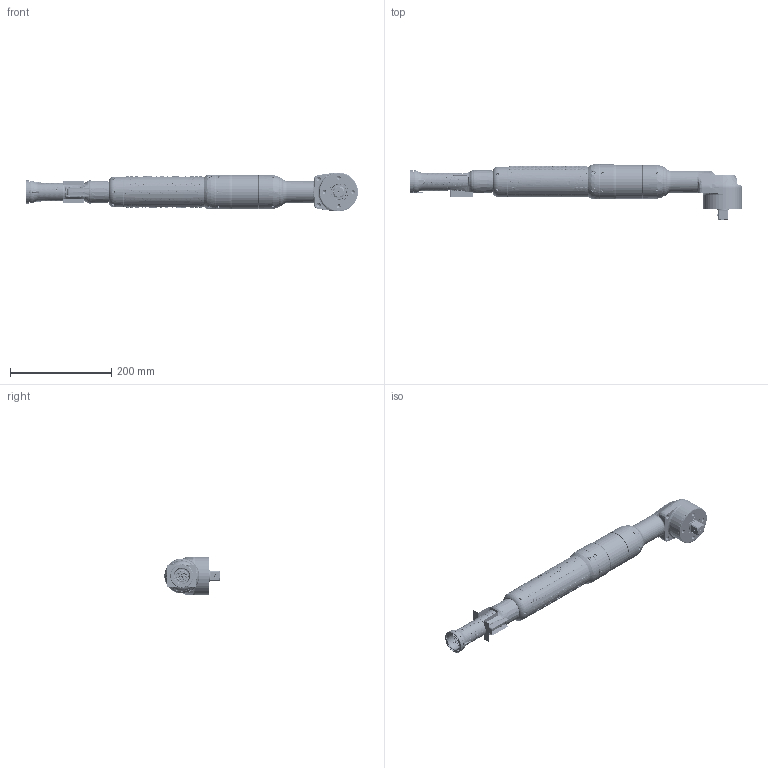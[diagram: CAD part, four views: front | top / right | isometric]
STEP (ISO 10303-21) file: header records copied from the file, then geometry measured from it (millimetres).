
FILE_DESCRIPTION((''),'2;1');
FILE_NAME('70EAN240PA6_ASM','2019-02-18T',('QC717'),(''),'CREO PARAMETRIC BY PTC INC, 2016130','CREO PARAMETRIC BY PTC INC, 2016130','');
FILE_SCHEMA(('CONFIG_CONTROL_DESIGN'));
Length unit declared in the file: millimetre
Products named in the file (166): 3D_WIRES; 961558PT; 961692PT; 961565PT_DUP; 961564PT; 961575PT; 961559PT_DUP; 961667PT; SHR-09V-S-B; 119625-T-_61_253__KONTAKTST_DUP; 961557PT; ETHERNET_CONN; 961557PT_ASM; 7908-0101-XX; AD22151; XE18235; XE18236; SM12B-SRSS-TB; BM09B-SRSS-TB; BM02B-SRSS-TB; 527451297; CAPACITOR; 11020FL210014-XX; SRU3028-100Y; 0420CDMCBDS-220MC; GRM32ER71H106KA12; 525591652; D303; D201; D305; 8817-0101-XX_ASM; 961668PT_ASM; 863454_INSTALLED; SHR-12V-S-B; 961594PT; 961594PT_DUP_ASM; 207903PT; 207906PT; PCB2033; PCA9624BS_STIFFENER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
Assembly tree (231 placements, depth 7):
  70EAN240PA6_ASM
    T50-3000150_ASM
      T50-3000148_ASM
        3D_WIRES
        961558PT
        961692PT
        961565PT_DUP  x4
        961564PT
        961575PT
        961559PT_DUP
        961667PT
        961557PT_ASM
          SHR-09V-S-B
          119625-T-_61_253__KONTAKTST_DUP  x2
          961557PT
          ETHERNET_CONN
        961668PT_ASM
          8817-0101-XX_ASM
            7908-0101-XX
            AD22151  x4
            XE18235
            XE18236
            SM12B-SRSS-TB
            BM09B-SRSS-TB
            BM02B-SRSS-TB
            527451297
            CAPACITOR  x2
            11020FL210014-XX
            SRU3028-100Y  x2
            0420CDMCBDS-220MC
            GRM32ER71H106KA12
            525591652
            D303
            D201  x2
            D305
        863454_INSTALLED
        961594PT_DUP_ASM
          SHR-12V-S-B  x2
          961594PT
        207903PT
        207905PT_INST_ASM
          207906PT
          PCB2033_INST_ASM
            PCB2033
            PCA9624BS_STIFFENER  x2
            PCA9624BS
            CAT24C256
            BUZZER_DUP
            XZFBB81FS  x16
            CLM3ABK  x2
          207907PT_OBS_ASM
            207907PT
            208867PT
            208868PT
          207908PT_INSTALLED
        207967PT_INSTALLED
        207964PT
        207925PT
        207949PT
        207951PT_INSTALLED
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Bounding box: 655.14 x 109.24 x 76 mm (x, y, z)
Volume: 1030314.4 mm3; surface area: 746813.1 mm2
Topology: 254 solids, 294 shells, 20758 faces, 55716 edges, 35382 vertices
Faces by surface type: plane 8981, cylinder 4905, bspline 2564, extrusion 1852, cone 1383, torus 823, sphere 192, revolution 58
Entity records: 820629 total; most frequent: CARTESIAN_POINT 390028, ORIENTED_EDGE 96350, DIRECTION 77860, EDGE_CURVE 48283, VERTEX_POINT 30732, AXIS2_PLACEMENT_3D 26007, VECTOR 25790, LINE 24070
